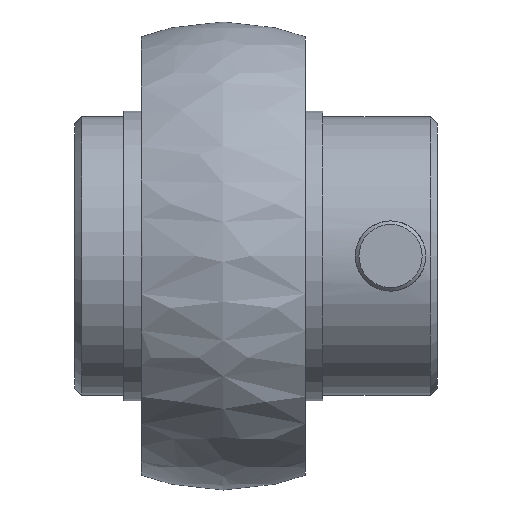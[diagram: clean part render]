
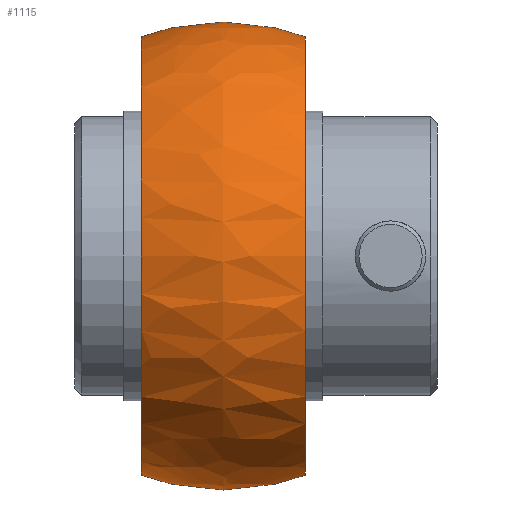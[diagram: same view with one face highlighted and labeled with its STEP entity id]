
A CAD part, front view. The second image highlights one B-rep face of the part: STEP entity #1115.
In plain terms, the highlighted spherical face has radius 20 mm.
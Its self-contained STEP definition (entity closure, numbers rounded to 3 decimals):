
#84=SPHERICAL_SURFACE('',#1220,20.);
#179=CIRCLE('',#1212,18.735);
#182=CIRCLE('',#1219,18.735);
#294=FACE_BOUND('',#439,.T.);
#295=FACE_BOUND('',#440,.T.);
#296=FACE_BOUND('',#441,.T.);
#297=FACE_BOUND('',#442,.T.);
#439=EDGE_LOOP('',(#848));
#440=EDGE_LOOP('',(#849));
#441=EDGE_LOOP('',(#850));
#442=EDGE_LOOP('',(#851));
#512=B_SPLINE_CURVE_WITH_KNOTS('',3,(#1985,#1986,#1987,#1988,#1989,#1990,
#1991,#1992,#1993,#1994,#1995,#1996,#1997,#1998,#1999,#2000,#2001,#2002,
#2003,#2004,#2005,#2006,#2007,#2008,#2009,#2010,#2011,#2012,#2013,#2014,
#2015,#2016,#2017,#2018),.UNSPECIFIED.,.T.,.F.,(4,2,2,2,2,2,2,2,2,2,2,2,
2,2,2,2,4),(0.,0.028,0.056,0.086,
0.117,0.146,0.176,0.205,
0.233,0.261,0.29,0.32,
0.35,0.38,0.41,0.438,0.466),
 .UNSPECIFIED.);
#514=B_SPLINE_CURVE_WITH_KNOTS('',3,(#2056,#2057,#2058,#2059,#2060,#2061,
#2062,#2063,#2064,#2065,#2066,#2067,#2068,#2069,#2070,#2071,#2072,#2073,
#2074,#2075,#2076,#2077,#2078,#2079,#2080,#2081,#2082,#2083,#2084,#2085,
#2086,#2087,#2088,#2089),.UNSPECIFIED.,.T.,.F.,(4,2,2,2,2,2,2,2,2,2,2,2,
2,2,2,2,4),(0.,0.028,0.056,0.086,
0.117,0.147,0.177,0.205,
0.233,0.261,0.29,0.32,
0.35,0.38,0.41,0.438,
0.466),.UNSPECIFIED.);
#564=VERTEX_POINT('',#1984);
#566=VERTEX_POINT('',#2055);
#573=VERTEX_POINT('',#2107);
#576=VERTEX_POINT('',#2117);
#671=EDGE_CURVE('',#564,#564,#512,.T.);
#673=EDGE_CURVE('',#566,#566,#514,.T.);
#680=EDGE_CURVE('',#573,#573,#179,.T.);
#683=EDGE_CURVE('',#576,#576,#182,.T.);
#848=ORIENTED_EDGE('',*,*,#671,.T.);
#849=ORIENTED_EDGE('',*,*,#673,.T.);
#850=ORIENTED_EDGE('',*,*,#683,.T.);
#851=ORIENTED_EDGE('',*,*,#680,.F.);
#1115=ADVANCED_FACE('',(#294,#295,#296,#297),#84,.T.);
#1212=AXIS2_PLACEMENT_3D('',#2108,#1451,#1452);
#1219=AXIS2_PLACEMENT_3D('',#2118,#1465,#1466);
#1220=AXIS2_PLACEMENT_3D('',#2119,#1467,#1468);
#1451=DIRECTION('center_axis',(1.,0.,0.));
#1452=DIRECTION('ref_axis',(0.,0.,-1.));
#1465=DIRECTION('center_axis',(1.,0.,0.));
#1466=DIRECTION('ref_axis',(0.,0.,-1.));
#1467=DIRECTION('center_axis',(0.,0.,1.));
#1468=DIRECTION('ref_axis',(1.,0.,0.));
#1984=CARTESIAN_POINT('',(4.188,13.829,13.829));
#1985=CARTESIAN_POINT('Ctrl Pts',(4.188,13.829,13.829));
#1986=CARTESIAN_POINT('Ctrl Pts',(4.188,13.762,13.895));
#1987=CARTESIAN_POINT('Ctrl Pts',(4.169,13.694,13.968));
#1988=CARTESIAN_POINT('Ctrl Pts',(4.09,13.575,14.107));
#1989=CARTESIAN_POINT('Ctrl Pts',(4.032,13.524,14.173));
#1990=CARTESIAN_POINT('Ctrl Pts',(3.894,13.446,14.285));
#1991=CARTESIAN_POINT('Ctrl Pts',(3.804,13.415,14.338));
#1992=CARTESIAN_POINT('Ctrl Pts',(3.608,13.384,14.418));
#1993=CARTESIAN_POINT('Ctrl Pts',(3.502,13.383,14.444));
#1994=CARTESIAN_POINT('Ctrl Pts',(3.305,13.407,14.468));
#1995=CARTESIAN_POINT('Ctrl Pts',(3.201,13.433,14.468));
#1996=CARTESIAN_POINT('Ctrl Pts',(3.007,13.51,14.438));
#1997=CARTESIAN_POINT('Ctrl Pts',(2.918,13.562,14.407));
#1998=CARTESIAN_POINT('Ctrl Pts',(2.779,13.673,14.33));
#1999=CARTESIAN_POINT('Ctrl Pts',(2.718,13.739,14.278));
#2000=CARTESIAN_POINT('Ctrl Pts',(2.638,13.879,14.157));
#2001=CARTESIAN_POINT('Ctrl Pts',(2.617,13.953,14.088));
#2002=CARTESIAN_POINT('Ctrl Pts',(2.617,14.087,13.954));
#2003=CARTESIAN_POINT('Ctrl Pts',(2.637,14.155,13.881));
#2004=CARTESIAN_POINT('Ctrl Pts',(2.715,14.275,13.743));
#2005=CARTESIAN_POINT('Ctrl Pts',(2.774,14.326,13.677));
#2006=CARTESIAN_POINT('Ctrl Pts',(2.912,14.405,13.565));
#2007=CARTESIAN_POINT('Ctrl Pts',(3.002,14.436,13.513));
#2008=CARTESIAN_POINT('Ctrl Pts',(3.198,14.468,13.434));
#2009=CARTESIAN_POINT('Ctrl Pts',(3.304,14.468,13.408));
#2010=CARTESIAN_POINT('Ctrl Pts',(3.502,14.444,13.383));
#2011=CARTESIAN_POINT('Ctrl Pts',(3.608,14.418,13.384));
#2012=CARTESIAN_POINT('Ctrl Pts',(3.804,14.338,13.415));
#2013=CARTESIAN_POINT('Ctrl Pts',(3.894,14.285,13.446));
#2014=CARTESIAN_POINT('Ctrl Pts',(4.032,14.173,13.524));
#2015=CARTESIAN_POINT('Ctrl Pts',(4.09,14.107,13.575));
#2016=CARTESIAN_POINT('Ctrl Pts',(4.169,13.968,13.694));
#2017=CARTESIAN_POINT('Ctrl Pts',(4.188,13.895,13.762));
#2018=CARTESIAN_POINT('Ctrl Pts',(4.188,13.829,13.829));
#2055=CARTESIAN_POINT('',(4.188,19.557,0.));
#2056=CARTESIAN_POINT('Ctrl Pts',(4.188,19.557,0.));
#2057=CARTESIAN_POINT('Ctrl Pts',(4.188,19.557,0.094));
#2058=CARTESIAN_POINT('Ctrl Pts',(4.169,19.56,0.194));
#2059=CARTESIAN_POINT('Ctrl Pts',(4.09,19.574,0.376));
#2060=CARTESIAN_POINT('Ctrl Pts',(4.032,19.584,0.459));
#2061=CARTESIAN_POINT('Ctrl Pts',(3.894,19.609,0.594));
#2062=CARTESIAN_POINT('Ctrl Pts',(3.804,19.624,0.653));
#2063=CARTESIAN_POINT('Ctrl Pts',(3.608,19.659,0.731));
#2064=CARTESIAN_POINT('Ctrl Pts',(3.502,19.677,0.75));
#2065=CARTESIAN_POINT('Ctrl Pts',(3.304,19.711,0.75));
#2066=CARTESIAN_POINT('Ctrl Pts',(3.198,19.729,0.731));
#2067=CARTESIAN_POINT('Ctrl Pts',(3.002,19.763,0.653));
#2068=CARTESIAN_POINT('Ctrl Pts',(2.912,19.778,0.594));
#2069=CARTESIAN_POINT('Ctrl Pts',(2.774,19.802,0.459));
#2070=CARTESIAN_POINT('Ctrl Pts',(2.715,19.811,0.376));
#2071=CARTESIAN_POINT('Ctrl Pts',(2.637,19.825,0.194));
#2072=CARTESIAN_POINT('Ctrl Pts',(2.617,19.828,0.094));
#2073=CARTESIAN_POINT('Ctrl Pts',(2.617,19.828,-0.094));
#2074=CARTESIAN_POINT('Ctrl Pts',(2.637,19.825,-0.194));
#2075=CARTESIAN_POINT('Ctrl Pts',(2.715,19.811,-0.376));
#2076=CARTESIAN_POINT('Ctrl Pts',(2.774,19.802,-0.459));
#2077=CARTESIAN_POINT('Ctrl Pts',(2.912,19.778,-0.594));
#2078=CARTESIAN_POINT('Ctrl Pts',(3.002,19.763,-0.653));
#2079=CARTESIAN_POINT('Ctrl Pts',(3.198,19.729,-0.731));
#2080=CARTESIAN_POINT('Ctrl Pts',(3.304,19.711,-0.75));
#2081=CARTESIAN_POINT('Ctrl Pts',(3.502,19.677,-0.75));
#2082=CARTESIAN_POINT('Ctrl Pts',(3.608,19.659,-0.731));
#2083=CARTESIAN_POINT('Ctrl Pts',(3.804,19.624,-0.653));
#2084=CARTESIAN_POINT('Ctrl Pts',(3.894,19.609,-0.594));
#2085=CARTESIAN_POINT('Ctrl Pts',(4.032,19.584,-0.459));
#2086=CARTESIAN_POINT('Ctrl Pts',(4.09,19.574,-0.376));
#2087=CARTESIAN_POINT('Ctrl Pts',(4.169,19.56,-0.194));
#2088=CARTESIAN_POINT('Ctrl Pts',(4.188,19.557,-0.094));
#2089=CARTESIAN_POINT('Ctrl Pts',(4.188,19.557,0.));
#2107=CARTESIAN_POINT('',(7.,18.735,0.));
#2108=CARTESIAN_POINT('Origin',(7.,0.,0.));
#2117=CARTESIAN_POINT('',(-7.,18.735,0.));
#2118=CARTESIAN_POINT('Origin',(-7.,0.,0.));
#2119=CARTESIAN_POINT('Origin',(0.,0.,0.));
